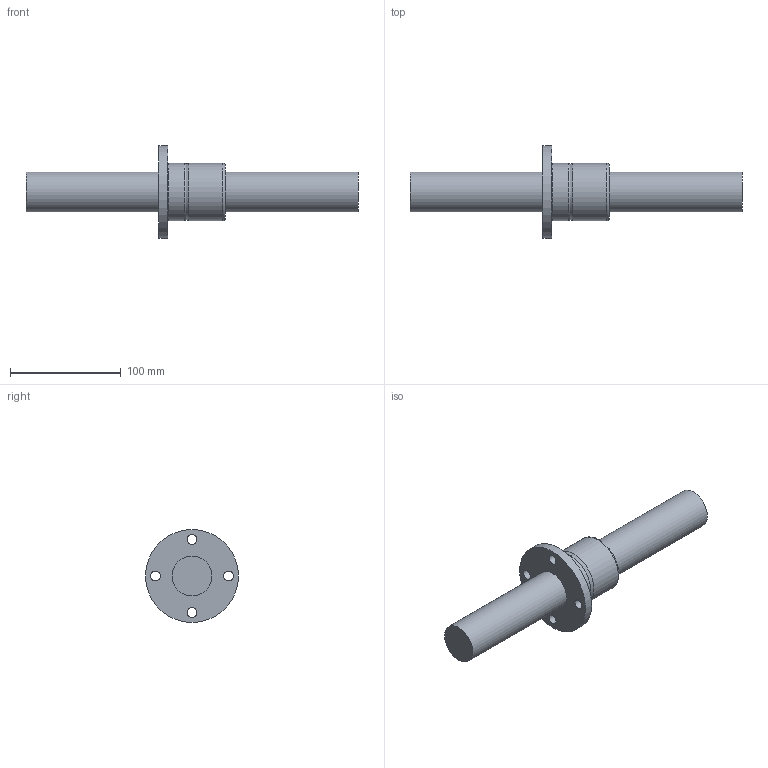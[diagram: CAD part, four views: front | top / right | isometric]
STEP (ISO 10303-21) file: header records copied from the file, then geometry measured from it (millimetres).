
FILE_DESCRIPTION((''),'2;1');
FILE_NAME('D:\製品 (図面)\カタログ用3D\ネジ関連\STEP形式\TMF-OH\TMF36-OH.stp','2010-06-02T15:15:31',('Tsuchiya'),(''),'Autodesk Inventor 10','Autodesk Inventor 10','');
FILE_SCHEMA(('AUTOMOTIVE_DESIGN { 1 0 10303 214 1 1 1 1 }'));
Length unit declared in the file: millimetre
Products named in the file (3): TMF36-OH; TMF36-OH1; TMF36-OH2
Assembly tree (2 placements, depth 2):
  TMF36-OH
    TMF36-OH1
    TMF36-OH2
Bounding box: 300 x 84 x 84 mm (x, y, z)
Volume: 396530.3 mm3; surface area: 62719.1 mm2
Topology: 2 solids, 2 shells, 18 faces, 40 edges, 27 vertices
Faces by surface type: cylinder 10, plane 5, bspline 2, torus 1
Full cylindrical faces by diameter (mm): 3 x1, 9 x4, 36 x2, 52 x2, 84 x1
Entity records: 714 total; most frequent: CARTESIAN_POINT 291, DIRECTION 82, ORIENTED_EDGE 44, EDGE_LOOP 44, AXIS2_PLACEMENT_3D 41, FACE_BOUND 26, VERTEX_POINT 22, EDGE_CURVE 22
